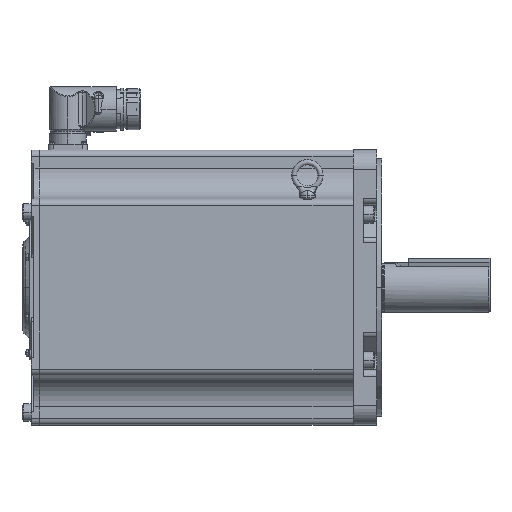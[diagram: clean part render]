
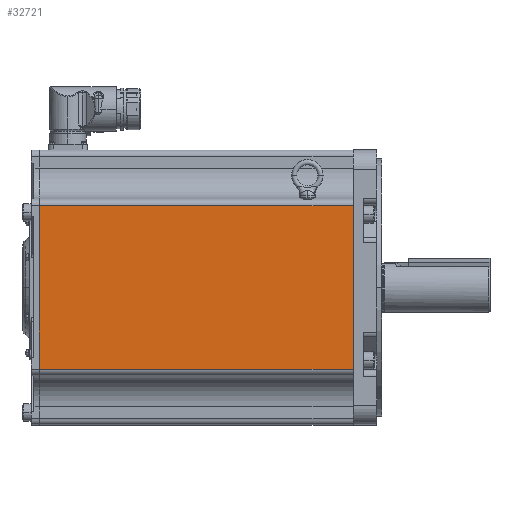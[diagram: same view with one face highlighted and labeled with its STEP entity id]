
A CAD part, top view. The second image highlights one B-rep face of the part: STEP entity #32721.
In plain terms, the highlighted planar face has unit normal (0, 0, 1) as drawn and (0, 0, -1) by its records, which use the part's own axes.
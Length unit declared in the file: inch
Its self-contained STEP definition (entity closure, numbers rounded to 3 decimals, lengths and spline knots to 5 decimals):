
#209 = ORIENTED_EDGE ( 'NONE', *, *, #1342, .T. ) ;
#293 = CARTESIAN_POINT ( 'NONE',  ( -0.9, 3.375, -5.25 ) ) ;
#578 = FACE_OUTER_BOUND ( 'NONE', #30571, .T. ) ;
#1342 = EDGE_CURVE ( 'NONE', #17711, #34222, #25722, .T. ) ;
#1743 = CARTESIAN_POINT ( 'NONE',  ( -12.89, 3.375, -5.25 ) ) ;
#2494 = VERTEX_POINT ( 'NONE', #17362 ) ;
#5675 = LINE ( 'NONE', #13152, #20648 ) ;
#7099 = CARTESIAN_POINT ( 'NONE',  ( -0.9, -3.125, -5.25 ) ) ;
#7298 = VECTOR ( 'NONE', #14560, 39.37008 ) ;
#8883 = CARTESIAN_POINT ( 'NONE',  ( -12.89, 3.375, -5.25 ) ) ;
#9088 = CARTESIAN_POINT ( 'NONE',  ( -12.89, -3.125, -5.25 ) ) ;
#9212 = EDGE_CURVE ( 'NONE', #2494, #32631, #5675, .T. ) ;
#10251 = DIRECTION ( 'NONE',  ( 0., -1., 0. ) ) ;
#10474 = EDGE_CURVE ( 'NONE', #32631, #17711, #25026, .T. ) ;
#13152 = CARTESIAN_POINT ( 'NONE',  ( -12.89, 3.125, -5.25 ) ) ;
#14560 = DIRECTION ( 'NONE',  ( 0., -1., 0. ) ) ;
#15345 = CARTESIAN_POINT ( 'NONE',  ( -0.9, 3.125, -5.25 ) ) ;
#17362 = CARTESIAN_POINT ( 'NONE',  ( -12.89, 3.125, -5.25 ) ) ;
#17711 = VERTEX_POINT ( 'NONE', #7099 ) ;
#18227 = VECTOR ( 'NONE', #29097, 39.37008 ) ;
#20011 = DIRECTION ( 'NONE',  ( 0., -1., 0. ) ) ;
#20648 = VECTOR ( 'NONE', #32899, 39.37008 ) ;
#23599 = EDGE_CURVE ( 'NONE', #2494, #34222, #36440, .T. ) ;
#23775 = CARTESIAN_POINT ( 'NONE',  ( -12.89, -3.125, -5.25 ) ) ;
#25026 = LINE ( 'NONE', #293, #32557 ) ;
#25722 = LINE ( 'NONE', #9088, #18227 ) ;
#27174 = DIRECTION ( 'NONE',  ( 0., 0., 1. ) ) ;
#28744 = AXIS2_PLACEMENT_3D ( 'NONE', #1743, #27174, #10251 ) ;
#29097 = DIRECTION ( 'NONE',  ( -1., 0., 0. ) ) ;
#30571 = EDGE_LOOP ( 'NONE', ( #30909, #209, #32081, #35885 ) ) ;
#30909 = ORIENTED_EDGE ( 'NONE', *, *, #10474, .T. ) ;
#32081 = ORIENTED_EDGE ( 'NONE', *, *, #23599, .F. ) ;
#32557 = VECTOR ( 'NONE', #20011, 39.37008 ) ;
#32631 = VERTEX_POINT ( 'NONE', #15345 ) ;
#32721 = ADVANCED_FACE ( 'NONE', ( #578 ), #32745, .F. ) ;
#32745 = PLANE ( 'NONE',  #28744 ) ;
#32899 = DIRECTION ( 'NONE',  ( 1., 0., 0. ) ) ;
#34222 = VERTEX_POINT ( 'NONE', #23775 ) ;
#35885 = ORIENTED_EDGE ( 'NONE', *, *, #9212, .T. ) ;
#36440 = LINE ( 'NONE', #8883, #7298 ) ;
